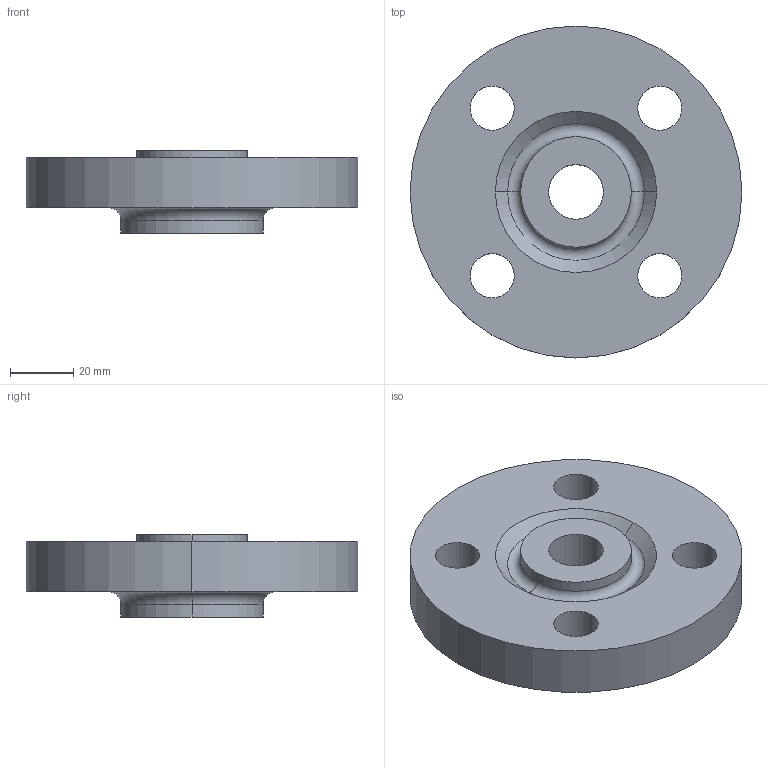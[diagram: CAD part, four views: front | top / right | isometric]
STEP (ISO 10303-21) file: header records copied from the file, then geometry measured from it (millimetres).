
FILE_DESCRIPTION (( 'STEP AP214' ), '1' );
FILE_NAME ('PN40 DN20 Type 13 - Type H Face.STEP', '2018-12-30T04:07:49', ( '' ), ( '' ), 'SwSTEP 2.0', 'SolidWorks 2019', '' );
FILE_SCHEMA (( 'AUTOMOTIVE_DESIGN' ));
Length unit declared in the file: millimetre
Products named in the file (1): PN40 DN20 Type 13 - Type H Face
Bounding box: 105 x 105 x 26 mm (x, y, z)
Volume: 134953.8 mm3; surface area: 26770.7 mm2
Topology: 1 solids, 1 shells, 26 faces, 60 edges, 38 vertices
Faces by surface type: cylinder 16, torus 4, plane 4, cone 2
Entity records: 812 total; most frequent: DIRECTION 156, CARTESIAN_POINT 125, ORIENTED_EDGE 120, AXIS2_PLACEMENT_3D 69, EDGE_CURVE 60, CIRCLE 42, EDGE_LOOP 38, VERTEX_POINT 38
